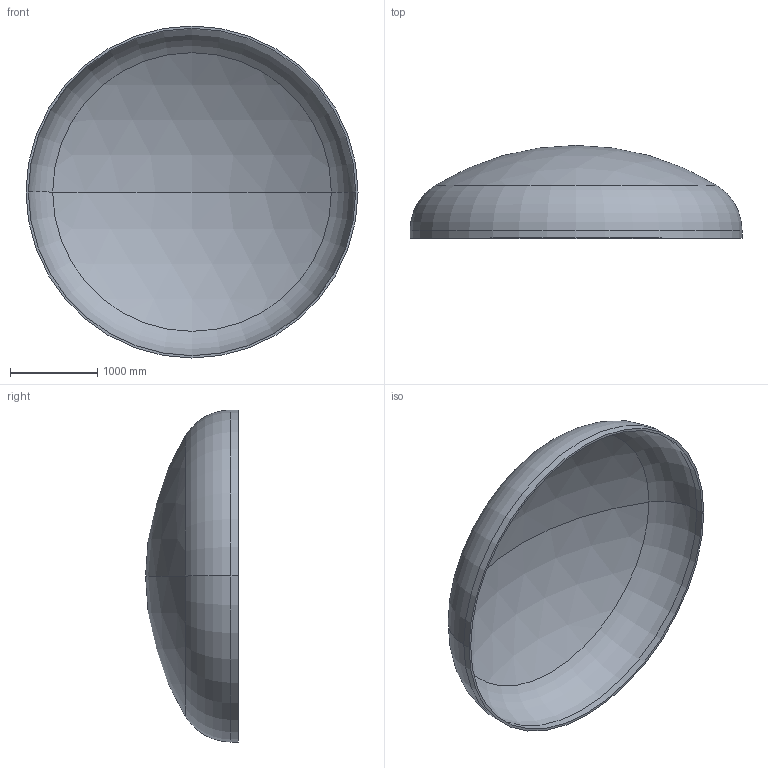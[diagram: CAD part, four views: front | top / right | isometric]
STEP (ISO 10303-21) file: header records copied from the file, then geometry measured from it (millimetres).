
FILE_DESCRIPTION (( 'STEP AP203' ), '1' );
FILE_NAME ('DIN 28013 Korbbogenform_-_Boden DIN 28013 - 3800 x 85 - I - s=27.step', '2016-07-01T21:13:29', ( '' ), ( '' ), 'SwSTEP 2.0', 'SolidWorks 2013', '' );
FILE_SCHEMA (( 'CONFIG_CONTROL_DESIGN' ));
Length unit declared in the file: millimetre
Products named in the file (1): DIN 28013 Korbbogenform_-_Boden DIN 28013 - 3800 x 85 - I - s=27
Bounding box: 3800 x 1062 x 3800 mm (x, y, z)
Volume: 447312364.5 mm3; surface area: 33455800.5 mm2
Topology: 1 solids, 1 shells, 13 faces, 24 edges, 14 vertices
Faces by surface type: torus 4, cylinder 4, sphere 4, plane 1
Entity records: 407 total; most frequent: DIRECTION 72, CARTESIAN_POINT 52, ORIENTED_EDGE 48, AXIS2_PLACEMENT_3D 34, EDGE_CURVE 24, CIRCLE 20, VERTEX_POINT 14, EDGE_LOOP 14
